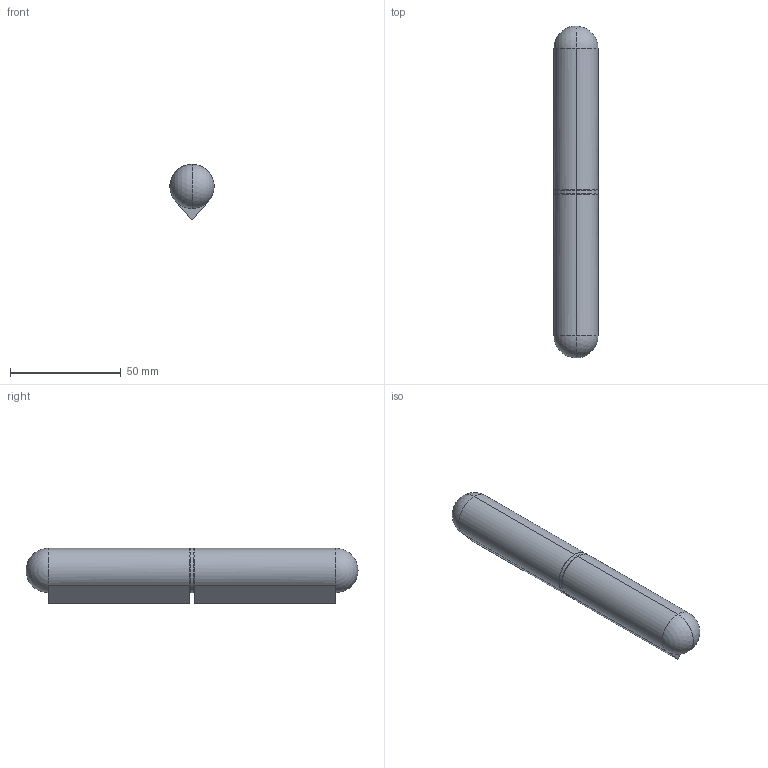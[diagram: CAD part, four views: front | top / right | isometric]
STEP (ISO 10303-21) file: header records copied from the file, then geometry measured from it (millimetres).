
FILE_DESCRIPTION (( 'STEP AP214' ), '1' );
FILE_NAME ('7011.00.150.STEP', '2021-01-21T03:29:36', ( '' ), ( '' ), 'SwSTEP 2.0', 'SolidWorks 2018', '' );
FILE_SCHEMA (( 'AUTOMOTIVE_DESIGN' ));
Length unit declared in the file: millimetre
Products named in the file (4): 7011.00.150; 7011.00-2_7011.00.150; 7011.00-1_7004.00.150; 7011.00-3_7011.00.150
Assembly tree (4 placements, depth 2):
  7011.00.150
    7011.00-1_7004.00.150  x2
    7011.00-2_7011.00.150
    7011.00-3_7011.00.150
Bounding box: 20 x 150 x 25 mm (x, y, z)
Volume: 48143.8 mm3; surface area: 20574.8 mm2
Topology: 4 solids, 4 shells, 45 faces, 104 edges, 63 vertices
Faces by surface type: cylinder 18, plane 13, torus 8, sphere 6
Entity records: 1100 total; most frequent: DIRECTION 188, CARTESIAN_POINT 142, ORIENTED_EDGE 128, AXIS2_PLACEMENT_3D 85, EDGE_CURVE 64, CIRCLE 46, VERTEX_POINT 39, EDGE_LOOP 35
